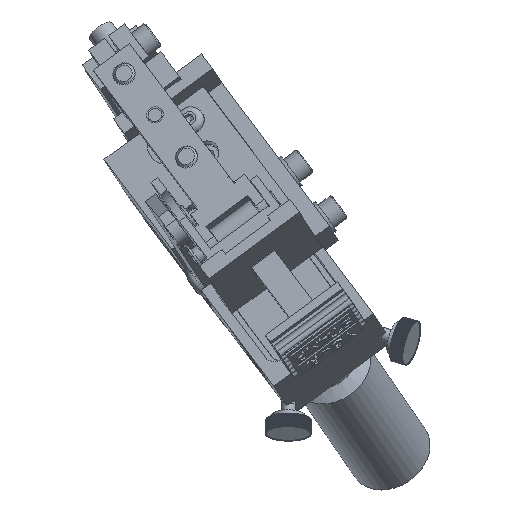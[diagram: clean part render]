
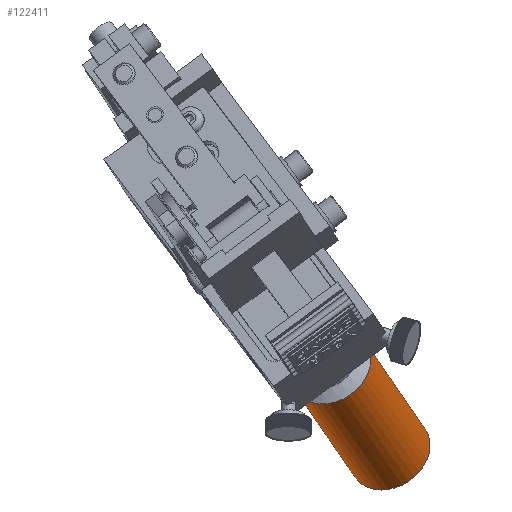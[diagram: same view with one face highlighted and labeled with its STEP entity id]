
A CAD part, isometric view. The second image highlights one B-rep face of the part: STEP entity #122411.
In plain terms, the highlighted cylindrical face has radius 12.065 mm (diameter 24.13 mm), a full revolution.
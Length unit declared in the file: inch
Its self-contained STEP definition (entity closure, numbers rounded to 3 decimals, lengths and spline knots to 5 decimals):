
#122384=CARTESIAN_POINT('',(-0.18118,-0.29102,0.0));
#122385=DIRECTION('',(0.,1.0,0.0));
#122386=DIRECTION('',(-1.0,0.0,0.0));
#122387=AXIS2_PLACEMENT_3D('',#122384,#122385,#122386);
#122388=CYLINDRICAL_SURFACE('',#122387,0.475);
#122389=CARTESIAN_POINT('',(-0.65618,0.67398,0.0));
#122390=VERTEX_POINT('',#122389);
#122391=CARTESIAN_POINT('',(-0.18118,0.67398,0.0));
#122392=DIRECTION('',(0.0,1.0,0.0));
#122393=DIRECTION('',(-1.0,0.0,0.0));
#122394=AXIS2_PLACEMENT_3D('',#122391,#122392,#122393);
#122395=CIRCLE('',#122394,0.475);
#122396=EDGE_CURVE('',#122390,#122390,#122395,.T.);
#122397=ORIENTED_EDGE('',*,*,#122396,.F.);
#122398=EDGE_LOOP('',(#122397));
#122399=FACE_OUTER_BOUND('',#122398,.T.);
#122400=CARTESIAN_POINT('',(-0.65618,-1.25602,0.0));
#122401=VERTEX_POINT('',#122400);
#122402=CARTESIAN_POINT('',(-0.18118,-1.25602,0.0));
#122403=DIRECTION('',(0.0,1.0,0.0));
#122404=DIRECTION('',(-1.0,0.0,0.0));
#122405=AXIS2_PLACEMENT_3D('',#122402,#122403,#122404);
#122406=CIRCLE('',#122405,0.475);
#122407=EDGE_CURVE('',#122401,#122401,#122406,.T.);
#122408=ORIENTED_EDGE('',*,*,#122407,.T.);
#122409=EDGE_LOOP('',(#122408));
#122410=FACE_BOUND('',#122409,.T.);
#122411=ADVANCED_FACE('',(#122399,#122410),#122388,.T.);
